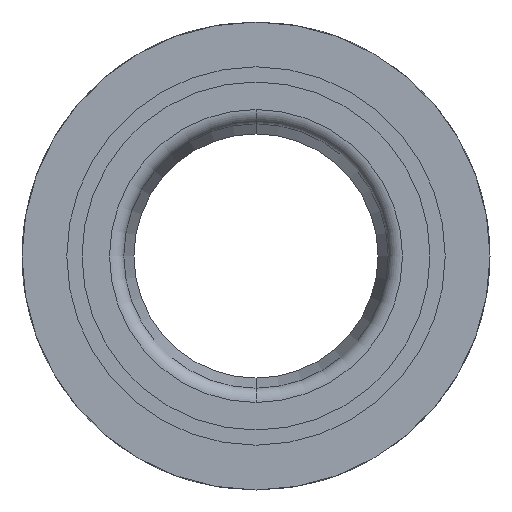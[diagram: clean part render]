
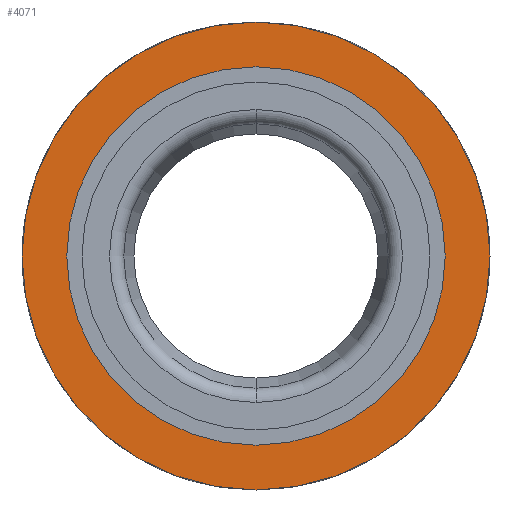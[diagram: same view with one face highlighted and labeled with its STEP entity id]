
A CAD part, front view. The second image highlights one B-rep face of the part: STEP entity #4071.
In plain terms, the highlighted planar face has unit normal (0, -1, 0).
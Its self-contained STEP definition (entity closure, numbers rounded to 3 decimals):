
#867 = DIRECTION ( 'NONE',  ( 0., 0., -1. ) ) ;
#868 = DIRECTION ( 'NONE',  ( 0., -1., 0. ) ) ;
#896 = CARTESIAN_POINT ( 'NONE',  ( 0., -25., 0. ) ) ;
#897 = AXIS2_PLACEMENT_3D ( 'NONE', #896, #868, #867 ) ;
#898 = CIRCLE ( 'NONE', #897, 8.55 ) ;
#1029 = CARTESIAN_POINT ( 'NONE',  ( 0., -25., 8.55 ) ) ;
#1030 = DIRECTION ( 'NONE',  ( 0., 0., -1. ) ) ;
#1031 = DIRECTION ( 'NONE',  ( 0., -1., 0. ) ) ;
#1049 = AXIS2_PLACEMENT_3D ( 'NONE', #1121, #1031, #1030 ) ;
#1121 = CARTESIAN_POINT ( 'NONE',  ( 0., -25., 0. ) ) ;
#1132 = CIRCLE ( 'NONE', #1049, 8.55 ) ;
#1140 = CARTESIAN_POINT ( 'NONE',  ( 0., -25., -8.55 ) ) ;
#1488 = CARTESIAN_POINT ( 'NONE',  ( -11.5, -25., 0. ) ) ;
#1489 = FACE_OUTER_BOUND ( 'NONE', #3927, .T. ) ;
#1490 = PLANE ( 'NONE',  #1504 ) ;
#1491 = FACE_BOUND ( 'NONE', #4072, .T. ) ;
#1504 = AXIS2_PLACEMENT_3D ( 'NONE', #1488, #1507, #1582 ) ;
#1507 = DIRECTION ( 'NONE',  ( 0., 1., 0. ) ) ;
#1535 = CARTESIAN_POINT ( 'NONE',  ( 0., -25., -11.5 ) ) ;
#1582 = DIRECTION ( 'NONE',  ( 0., 0., 1. ) ) ;
#1766 = DIRECTION ( 'NONE',  ( 0., 0., -1. ) ) ;
#1767 = DIRECTION ( 'NONE',  ( 0., -1., 0. ) ) ;
#1768 = CARTESIAN_POINT ( 'NONE',  ( 0., -25., 0. ) ) ;
#1770 = AXIS2_PLACEMENT_3D ( 'NONE', #1768, #1767, #1766 ) ;
#1771 = DIRECTION ( 'NONE',  ( 0., 0., -1. ) ) ;
#1772 = DIRECTION ( 'NONE',  ( 0., -1., 0. ) ) ;
#1773 = AXIS2_PLACEMENT_3D ( 'NONE', #1776, #1772, #1771 ) ;
#1775 = CIRCLE ( 'NONE', #1770, 11.5 ) ;
#1776 = CARTESIAN_POINT ( 'NONE',  ( 0., -25., 0. ) ) ;
#1797 = CIRCLE ( 'NONE', #1773, 11.5 ) ;
#1804 = CARTESIAN_POINT ( 'NONE',  ( 0., -25., 11.5 ) ) ;
#3715 = EDGE_CURVE ( 'NONE', #3839, #3825, #898, .T. ) ;
#3774 = ORIENTED_EDGE ( 'NONE', *, *, #4239, .T. ) ;
#3776 = ORIENTED_EDGE ( 'NONE', *, *, #3833, .F. ) ;
#3825 = VERTEX_POINT ( 'NONE', #1140 ) ;
#3833 = EDGE_CURVE ( 'NONE', #3825, #3839, #1132, .T. ) ;
#3839 = VERTEX_POINT ( 'NONE', #1029 ) ;
#3911 = ORIENTED_EDGE ( 'NONE', *, *, #3715, .F. ) ;
#3927 = EDGE_LOOP ( 'NONE', ( #3774, #4031 ) ) ;
#4031 = ORIENTED_EDGE ( 'NONE', *, *, #4242, .T. ) ;
#4071 = ADVANCED_FACE ( 'NONE', ( #1491, #1489 ), #1490, .F. ) ;
#4072 = EDGE_LOOP ( 'NONE', ( #3776, #3911 ) ) ;
#4121 = VERTEX_POINT ( 'NONE', #1535 ) ;
#4238 = VERTEX_POINT ( 'NONE', #1804 ) ;
#4239 = EDGE_CURVE ( 'NONE', #4121, #4238, #1797, .T. ) ;
#4242 = EDGE_CURVE ( 'NONE', #4238, #4121, #1775, .T. ) ;
